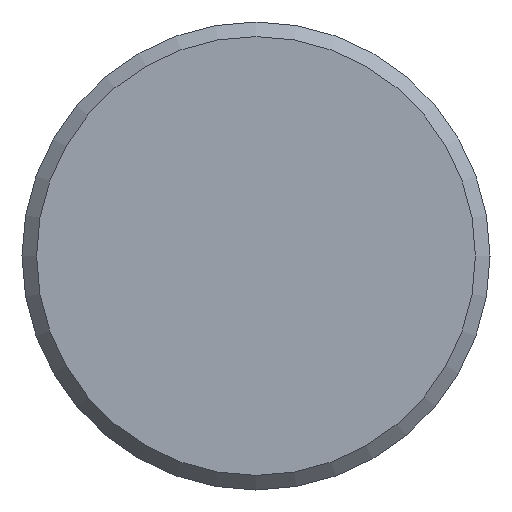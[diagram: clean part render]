
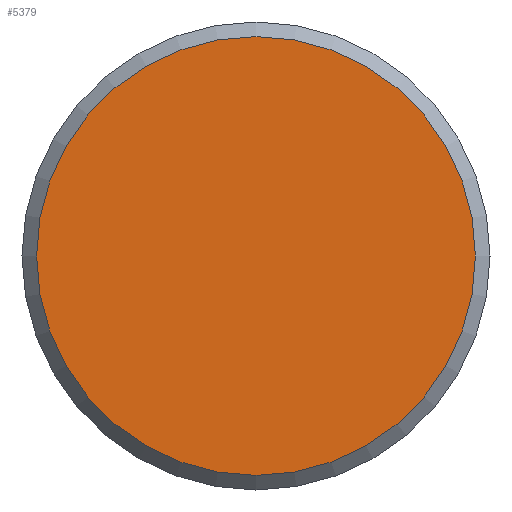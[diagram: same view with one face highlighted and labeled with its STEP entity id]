
A CAD part, left-side view. The second image highlights one B-rep face of the part: STEP entity #5379.
In plain terms, the highlighted planar face has unit normal (-1, 0, 0).
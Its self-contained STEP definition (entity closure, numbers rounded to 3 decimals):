
#1932=PLANE('',#4954);
#2007=ORIENTED_EDGE('',*,*,#2733,.T.);
#2367=CIRCLE('',#4953,7.5);
#2550=VERTEX_POINT('',#4403);
#2733=EDGE_CURVE('',#2550,#2550,#2367,.T.);
#2922=EDGE_LOOP('',(#2007));
#3288=FACE_BOUND('',#2922,.T.);
#3665=DIRECTION('',(-1.,0.,0.));
#3666=DIRECTION('',(0.,-7.5,0.));
#3667=DIRECTION('',(-1.,0.,0.));
#3668=DIRECTION('',(0.,1.,0.));
#4403=CARTESIAN_POINT('',(9.75,163.338,0.));
#4404=CARTESIAN_POINT('',(9.75,170.838,0.));
#4405=CARTESIAN_POINT('',(9.75,170.838,0.));
#4953=AXIS2_PLACEMENT_3D('',#4404,#3665,#3666);
#4954=AXIS2_PLACEMENT_3D('',#4405,#3667,#3668);
#5379=ADVANCED_FACE('',(#3288),#1932,.T.);
